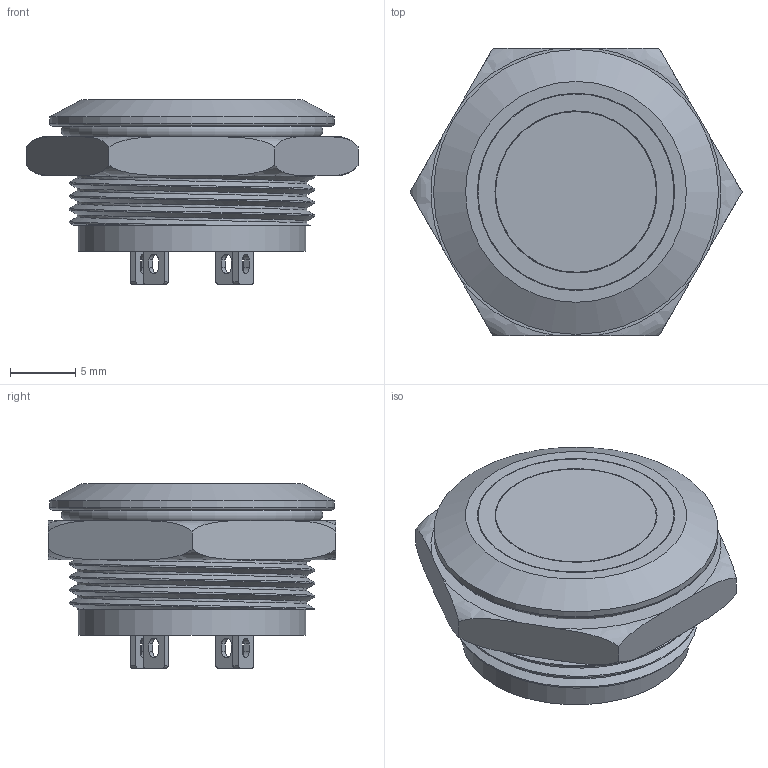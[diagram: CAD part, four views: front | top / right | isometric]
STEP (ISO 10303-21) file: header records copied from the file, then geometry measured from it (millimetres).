
FILE_DESCRIPTION(/* description */ (''),/* implementation_level */ '2;1');
FILE_NAME(/* name */ 'FM19S-SFP-10D1.stp',/* time_stamp */ '2020-08-05T10:53:21+08:00',/* author */ (''),/* organization */ (''),/* preprocessor_version */ 'ST-DEVELOPER v16.7',/* originating_system */ 'SIEMENS PLM Software NX 12.0',/* authorisation */ '');
FILE_SCHEMA (('AUTOMOTIVE_DESIGN { 1 0 10303 214 3 1 1 1 }'));
Length unit declared in the file: millimetre
Products named in the file (1): Admi4F983F75j4io
Bounding box: 25.4 x 22 x 14.1 mm (x, y, z)
Volume: 2812.2 mm3; surface area: 4212.1 mm2
Topology: 2 solids, 4 shells, 294 faces, 787 edges, 521 vertices
Faces by surface type: plane 196, cylinder 62, torus 15, extrusion 12, bspline 7, cone 2
Full cylindrical faces by diameter (mm): 12.3 x1, 12.4 x1, 15 x1, 15.1 x1, 15.9 x1, 16.14 x1, 16.5 x1, 16.6 x2, 16.8 x2, 17.4 x1, 21.8 x1
Entity records: 11859 total; most frequent: CARTESIAN_POINT 4031, ORIENTED_EDGE 1518, DIRECTION 1286, EDGE_CURVE 759, VERTEX_POINT 511, VECTOR 502, LINE 490, AXIS2_PLACEMENT_3D 392
